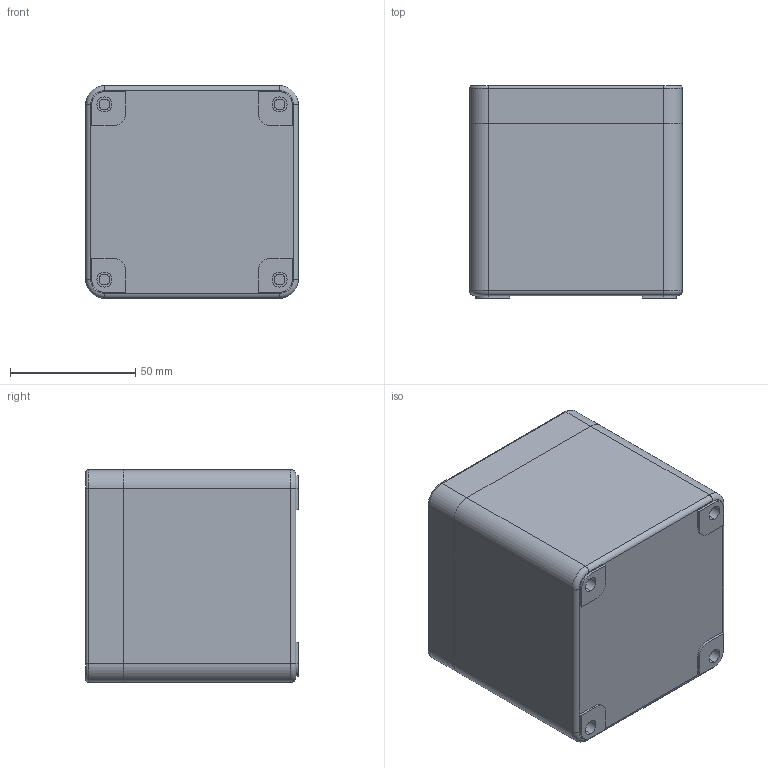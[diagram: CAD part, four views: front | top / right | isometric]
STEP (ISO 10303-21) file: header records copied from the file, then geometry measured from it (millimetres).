
FILE_DESCRIPTION (( 'STEP AP214' ), '1' );
FILE_NAME ('040C0808-8P1C.STEP', '2018-08-16T13:23:57', ( '' ), ( '' ), 'SwSTEP 2.0', 'SolidWorks 2013', '' );
FILE_SCHEMA (( 'AUTOMOTIVE_DESIGN' ));
Length unit declared in the file: millimetre
Products named in the file (1): 040C0808-8P1C
Bounding box: 85 x 85 x 85 mm (x, y, z)
Volume: 156970.1 mm3; surface area: 90598.1 mm2
Topology: 6 solids, 6 shells, 551 faces, 1345 edges, 846 vertices
Faces by surface type: plane 249, cylinder 222, torus 80
Entity records: 22179 total; most frequent: DIRECTION 2954, CARTESIAN_POINT 2791, ORIENTED_EDGE 2690, EDGE_CURVE 1345, AXIS2_PLACEMENT_3D 1073, VERTEX_POINT 846, LINE 808, VECTOR 808
